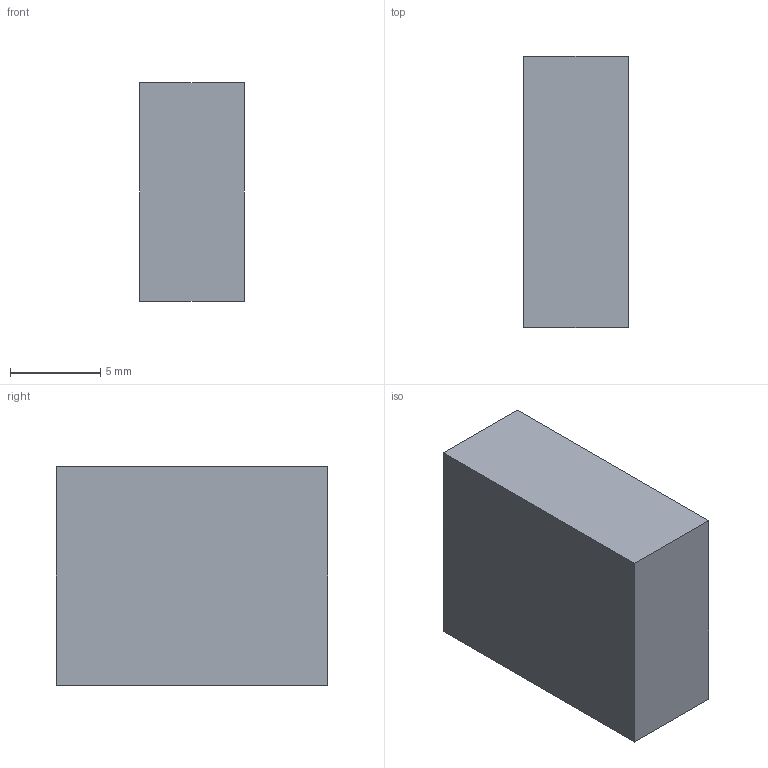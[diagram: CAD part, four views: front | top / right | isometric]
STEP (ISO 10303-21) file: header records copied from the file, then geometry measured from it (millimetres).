
FILE_DESCRIPTION(('Open CASCADE Model'),'2;1');
FILE_NAME('Open CASCADE Shape Model','2026-09-15T13:54:35',('Author'),( 'Open CASCADE'),'Open CASCADE STEP processor 7.7','Open CASCADE 7.7' ,'Unknown');
FILE_SCHEMA(('AUTOMOTIVE_DESIGN { 1 0 10303 214 1 1 1 1 }'));
Length unit declared in the file: millimetre
Products named in the file (1): SOLID
Bounding box: 5.8 x 15 x 12.1 mm (x, y, z)
Volume: 1052.7 mm3; surface area: 677.4 mm2
Topology: 1 solids, 1 shells, 6 faces, 12 edges, 8 vertices
Faces by surface type: plane 6
Entity records: 322 total; most frequent: CARTESIAN_POINT 51, DIRECTION 50, LINE 36, VECTOR 36, ORIENTED_EDGE 24, PCURVE 24, DEFINITIONAL_REPRESENTATION 24, EDGE_CURVE 12
